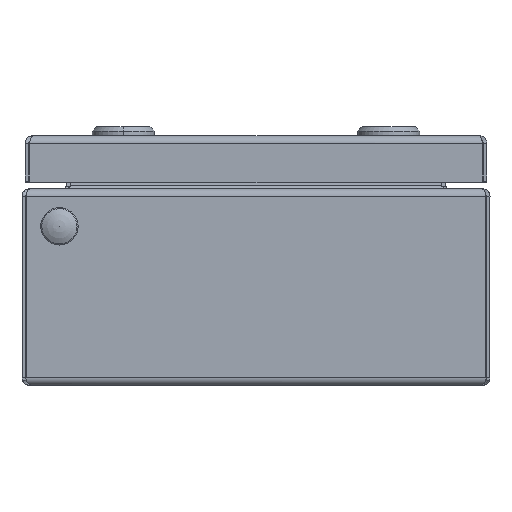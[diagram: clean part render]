
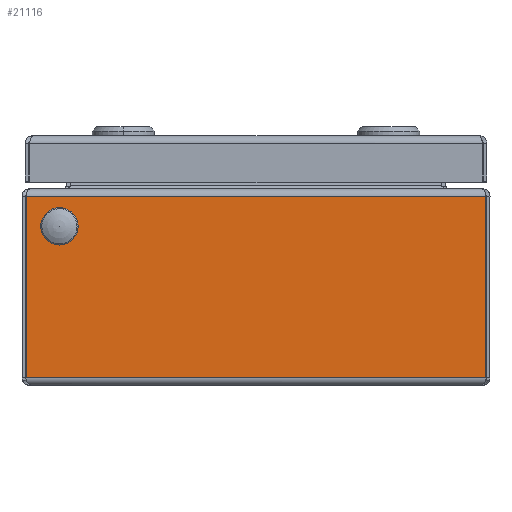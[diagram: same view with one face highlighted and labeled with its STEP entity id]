
A CAD part, front view. The second image highlights one B-rep face of the part: STEP entity #21116.
In plain terms, the highlighted planar face has unit normal (0, -1, 0).
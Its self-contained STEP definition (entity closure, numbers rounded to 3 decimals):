
#292 = CARTESIAN_POINT ( 'NONE',  ( -73.623, -75., 60.6 ) ) ;
#538 = DIRECTION ( 'NONE',  ( -1., 0., 0. ) ) ;
#1275 = EDGE_CURVE ( 'NONE', #33990, #10467, #27299, .T. ) ;
#1712 = LINE ( 'NONE', #15121, #9212 ) ;
#1886 = VECTOR ( 'NONE', #538, 1000. ) ;
#2104 = CIRCLE ( 'NONE', #27017, 4.55 ) ;
#2407 = CARTESIAN_POINT ( 'NONE',  ( -73.623, -75., 60.6 ) ) ;
#3438 = VERTEX_POINT ( 'NONE', #4936 ) ;
#4936 = CARTESIAN_POINT ( 'NONE',  ( -63., -75., 46.45 ) ) ;
#5278 = CIRCLE ( 'NONE', #30673, 4.55 ) ;
#5581 = EDGE_LOOP ( 'NONE', ( #7999, #6280 ) ) ;
#5897 = VERTEX_POINT ( 'NONE', #23995 ) ;
#6280 = ORIENTED_EDGE ( 'NONE', *, *, #30745, .F. ) ;
#7459 = DIRECTION ( 'NONE',  ( 0., 0., -1. ) ) ;
#7826 = FACE_OUTER_BOUND ( 'NONE', #25771, .T. ) ;
#7943 = VERTEX_POINT ( 'NONE', #22004 ) ;
#7999 = ORIENTED_EDGE ( 'NONE', *, *, #27606, .F. ) ;
#8612 = DIRECTION ( 'NONE',  ( 0., 0., 1. ) ) ;
#8860 = LINE ( 'NONE', #13579, #1886 ) ;
#9122 = EDGE_CURVE ( 'NONE', #7943, #33990, #8860, .T. ) ;
#9212 = VECTOR ( 'NONE', #20309, 1000. ) ;
#10329 = CARTESIAN_POINT ( 'NONE',  ( -63., -75., 55.55 ) ) ;
#10467 = VERTEX_POINT ( 'NONE', #2407 ) ;
#10655 = DIRECTION ( 'NONE',  ( 0., 0., -1. ) ) ;
#12718 = FACE_BOUND ( 'NONE', #5581, .T. ) ;
#13163 = EDGE_CURVE ( 'NONE', #5897, #10467, #1712, .T. ) ;
#13579 = CARTESIAN_POINT ( 'NONE',  ( 825., -75., 2.4 ) ) ;
#14099 = VECTOR ( 'NONE', #8612, 1000. ) ;
#14164 = CARTESIAN_POINT ( 'NONE',  ( -73.623, -75., 2.4 ) ) ;
#15121 = CARTESIAN_POINT ( 'NONE',  ( 825., -75., 60.6 ) ) ;
#15127 = DIRECTION ( 'NONE',  ( 0., -1., 0. ) ) ;
#15154 = DIRECTION ( 'NONE',  ( 0., 0., -1. ) ) ;
#15660 = CARTESIAN_POINT ( 'NONE',  ( -63., -75., 51. ) ) ;
#15999 = ORIENTED_EDGE ( 'NONE', *, *, #9122, .F. ) ;
#17301 = CARTESIAN_POINT ( 'NONE',  ( -63., -75., 51. ) ) ;
#17426 = EDGE_CURVE ( 'NONE', #5897, #7943, #31406, .T. ) ;
#18274 = DIRECTION ( 'NONE',  ( 0., 1., 0. ) ) ;
#18443 = PLANE ( 'NONE',  #26220 ) ;
#18591 = ORIENTED_EDGE ( 'NONE', *, *, #1275, .F. ) ;
#19010 = CARTESIAN_POINT ( 'NONE',  ( 73.623, -75., 60.6 ) ) ;
#20309 = DIRECTION ( 'NONE',  ( -1., 0., 0. ) ) ;
#21116 = ADVANCED_FACE ( 'NONE', ( #7826, #12718 ), #18443, .F. ) ;
#22004 = CARTESIAN_POINT ( 'NONE',  ( 73.623, -75., 2.4 ) ) ;
#23995 = CARTESIAN_POINT ( 'NONE',  ( 73.623, -75., 60.6 ) ) ;
#24252 = VERTEX_POINT ( 'NONE', #10329 ) ;
#25398 = ORIENTED_EDGE ( 'NONE', *, *, #13163, .T. ) ;
#25771 = EDGE_LOOP ( 'NONE', ( #15999, #29328, #25398, #18591 ) ) ;
#26220 = AXIS2_PLACEMENT_3D ( 'NONE', #34080, #18274, #15154 ) ;
#27017 = AXIS2_PLACEMENT_3D ( 'NONE', #15660, #15127, #7459 ) ;
#27299 = LINE ( 'NONE', #292, #14099 ) ;
#27606 = EDGE_CURVE ( 'NONE', #3438, #24252, #2104, .T. ) ;
#29328 = ORIENTED_EDGE ( 'NONE', *, *, #17426, .F. ) ;
#30565 = DIRECTION ( 'NONE',  ( 0., 0., -1. ) ) ;
#30673 = AXIS2_PLACEMENT_3D ( 'NONE', #17301, #33122, #30565 ) ;
#30745 = EDGE_CURVE ( 'NONE', #24252, #3438, #5278, .T. ) ;
#31406 = LINE ( 'NONE', #19010, #32187 ) ;
#32187 = VECTOR ( 'NONE', #10655, 1000. ) ;
#33122 = DIRECTION ( 'NONE',  ( 0., -1., 0. ) ) ;
#33990 = VERTEX_POINT ( 'NONE', #14164 ) ;
#34080 = CARTESIAN_POINT ( 'NONE',  ( 825., -75., 60.6 ) ) ;
